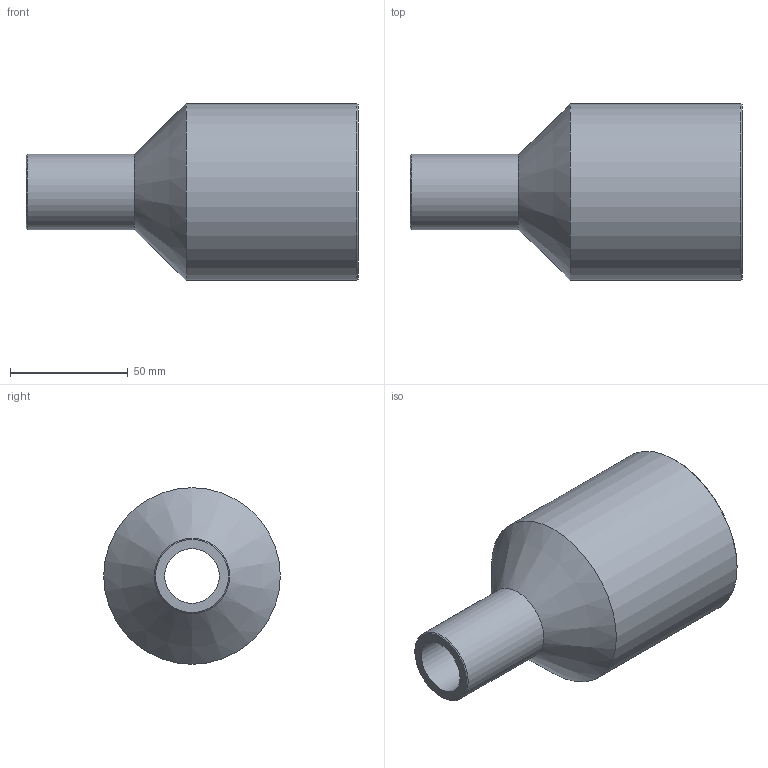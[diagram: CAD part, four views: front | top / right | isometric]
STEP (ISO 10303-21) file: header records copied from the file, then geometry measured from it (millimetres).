
FILE_DESCRIPTION(/* description */ ('Unknown'),/* implementation_level */ '2;1');
FILE_NAME(/* name */ 'RP075032H',/* time_stamp */ '2021-09-16T11:30:31+02:00',/* author */ ('Unknown'),/* organization */ ('Unknown'),/* preprocessor_version */ 'ST-DEVELOPER v16.7',/* originating_system */ 'Solid Edge',/* authorisation */ 'Unknown');
FILE_SCHEMA (('AUTOMOTIVE_DESIGN {1 0 10303 214 3 1 1}'));
Length unit declared in the file: millimetre
Products named in the file (1): RP075032H
Bounding box: 141 x 75 x 75 mm (x, y, z)
Volume: 202082.3 mm3; surface area: 48082.6 mm2
Topology: 1 solids, 1 shells, 10 faces, 19 edges, 11 vertices
Faces by surface type: cylinder 4, cone 4, plane 2
Full cylindrical faces by diameter (mm): 23.2 x1, 32 x1, 54.4 x1, 75 x1
Entity records: 238 total; most frequent: DIRECTION 42, CARTESIAN_POINT 31, AXIS2_PLACEMENT_3D 21, ORIENTED_EDGE 20, EDGE_LOOP 20, FACE_BOUND 20, EDGE_CURVE 10, VERTEX_POINT 10
